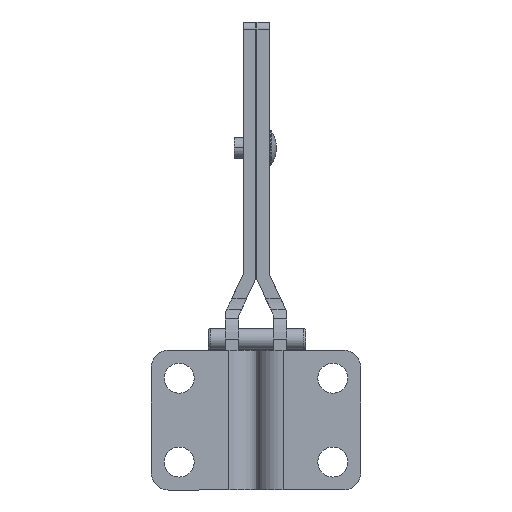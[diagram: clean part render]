
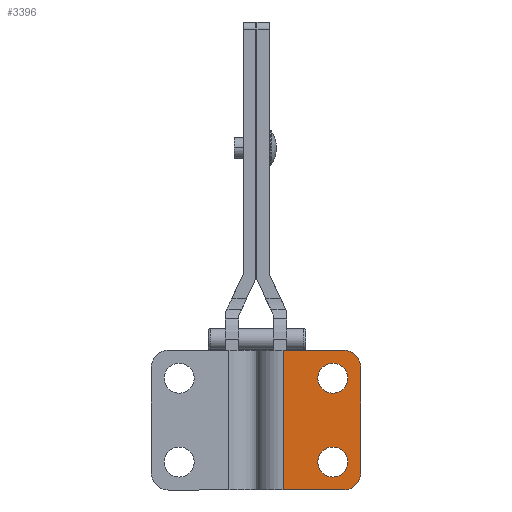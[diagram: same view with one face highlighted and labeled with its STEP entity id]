
A CAD part, front view. The second image highlights one B-rep face of the part: STEP entity #3396.
In plain terms, the highlighted planar face has unit normal (0, -1, 0).
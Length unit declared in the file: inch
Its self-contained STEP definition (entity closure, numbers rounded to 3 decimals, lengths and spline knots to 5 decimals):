
#688=CARTESIAN_POINT('',(-0.42485,0.,0.25));
#689=VERTEX_POINT('',#688);
#698=CARTESIAN_POINT('',(-0.15685,0.,0.25));
#699=VERTEX_POINT('',#698);
#700=CARTESIAN_POINT('',(-0.29085,0.,0.25));
#701=DIRECTION('',(0.0,1.0,0.0));
#702=DIRECTION('',(-1.0,0.0,0.0));
#703=AXIS2_PLACEMENT_3D('',#700,#701,#702);
#704=CIRCLE('',#703,0.134);
#705=EDGE_CURVE('',#699,#689,#704,.T.);
#730=CARTESIAN_POINT('',(-0.42485,0.,1.0));
#731=VERTEX_POINT('',#730);
#740=CARTESIAN_POINT('',(-0.15685,0.,1.0));
#741=VERTEX_POINT('',#740);
#742=CARTESIAN_POINT('',(-0.29085,0.,1.0));
#743=DIRECTION('',(0.0,1.0,0.0));
#744=DIRECTION('',(-1.0,0.0,0.0));
#745=AXIS2_PLACEMENT_3D('',#742,#743,#744);
#746=CIRCLE('',#745,0.134);
#747=EDGE_CURVE('',#741,#731,#746,.T.);
#774=CARTESIAN_POINT('',(-0.08554,0.,1.20431));
#775=VERTEX_POINT('',#774);
#791=CARTESIAN_POINT('',(-0.19585,0.,1.25));
#792=VERTEX_POINT('',#791);
#799=CARTESIAN_POINT('',(-0.19585,0.,1.094));
#800=DIRECTION('',(0.,1.0,0.));
#801=DIRECTION('',(0.707,0.,0.707));
#802=AXIS2_PLACEMENT_3D('',#799,#800,#801);
#803=CIRCLE('',#802,0.156);
#804=EDGE_CURVE('',#792,#775,#803,.T.);
#816=CARTESIAN_POINT('',(-0.08554,0.,0.04569));
#817=VERTEX_POINT('',#816);
#833=CARTESIAN_POINT('',(-0.03985,0.,0.156));
#834=VERTEX_POINT('',#833);
#841=CARTESIAN_POINT('',(-0.19585,0.,0.156));
#842=DIRECTION('',(0.,1.,0.));
#843=DIRECTION('',(0.707,0.,-0.707));
#844=AXIS2_PLACEMENT_3D('',#841,#842,#843);
#845=CIRCLE('',#844,0.156);
#846=EDGE_CURVE('',#834,#817,#845,.T.);
#2065=CARTESIAN_POINT('',(-0.73485,0.,1.25));
#2066=VERTEX_POINT('',#2065);
#2074=CARTESIAN_POINT('',(-0.19585,0.,1.25));
#2075=DIRECTION('',(-1.0,0.0,0.0));
#2076=VECTOR('',#2075,0.539);
#2077=LINE('',#2074,#2076);
#2078=EDGE_CURVE('',#792,#2066,#2077,.T.);
#3159=CARTESIAN_POINT('',(-0.19585,0.,0.));
#3160=VERTEX_POINT('',#3159);
#3161=CARTESIAN_POINT('',(-0.19585,0.,0.156));
#3162=DIRECTION('',(0.,1.,0.));
#3163=DIRECTION('',(0.707,0.,-0.707));
#3164=AXIS2_PLACEMENT_3D('',#3161,#3162,#3163);
#3165=CIRCLE('',#3164,0.156);
#3166=EDGE_CURVE('',#817,#3160,#3165,.T.);
#3200=CARTESIAN_POINT('',(-0.03985,0.,1.094));
#3201=VERTEX_POINT('',#3200);
#3208=CARTESIAN_POINT('',(-0.03985,0.,0.156));
#3209=DIRECTION('',(0.0,0.0,1.0));
#3210=VECTOR('',#3209,0.938);
#3211=LINE('',#3208,#3210);
#3212=EDGE_CURVE('',#834,#3201,#3211,.T.);
#3277=CARTESIAN_POINT('',(-0.19585,0.,1.094));
#3278=DIRECTION('',(0.,1.0,0.));
#3279=DIRECTION('',(0.707,0.,0.707));
#3280=AXIS2_PLACEMENT_3D('',#3277,#3278,#3279);
#3281=CIRCLE('',#3280,0.156);
#3282=EDGE_CURVE('',#775,#3201,#3281,.T.);
#3297=CARTESIAN_POINT('',(-0.29085,0.,1.0));
#3298=DIRECTION('',(0.0,1.0,0.0));
#3299=DIRECTION('',(-1.0,0.0,0.0));
#3300=AXIS2_PLACEMENT_3D('',#3297,#3298,#3299);
#3301=CIRCLE('',#3300,0.134);
#3302=EDGE_CURVE('',#731,#741,#3301,.T.);
#3315=CARTESIAN_POINT('',(-0.29085,0.,0.25));
#3316=DIRECTION('',(0.0,1.0,0.0));
#3317=DIRECTION('',(-1.0,0.0,0.0));
#3318=AXIS2_PLACEMENT_3D('',#3315,#3316,#3317);
#3319=CIRCLE('',#3318,0.134);
#3320=EDGE_CURVE('',#689,#699,#3319,.T.);
#3332=CARTESIAN_POINT('',(-0.73485,0.,0.));
#3333=VERTEX_POINT('',#3332);
#3341=CARTESIAN_POINT('',(-0.73485,0.,0.));
#3342=DIRECTION('',(0.0,0.0,1.0));
#3343=VECTOR('',#3342,1.25);
#3344=LINE('',#3341,#3343);
#3345=EDGE_CURVE('',#3333,#2066,#3344,.T.);
#3368=CARTESIAN_POINT('',(-0.03985,0.,0.));
#3369=DIRECTION('',(0.0,-1.0,0.0));
#3370=DIRECTION('',(0.0,0.0,-1.0));
#3371=AXIS2_PLACEMENT_3D('',#3368,#3369,#3370);
#3372=PLANE('',#3371);
#3373=ORIENTED_EDGE('',*,*,#846,.F.);
#3374=ORIENTED_EDGE('',*,*,#3212,.T.);
#3375=ORIENTED_EDGE('',*,*,#3282,.F.);
#3376=ORIENTED_EDGE('',*,*,#804,.F.);
#3377=ORIENTED_EDGE('',*,*,#2078,.T.);
#3378=ORIENTED_EDGE('',*,*,#3345,.F.);
#3379=CARTESIAN_POINT('',(-0.19585,0.,0.));
#3380=DIRECTION('',(-1.0,0.0,0.0));
#3381=VECTOR('',#3380,0.539);
#3382=LINE('',#3379,#3381);
#3383=EDGE_CURVE('',#3160,#3333,#3382,.T.);
#3384=ORIENTED_EDGE('',*,*,#3383,.F.);
#3385=ORIENTED_EDGE('',*,*,#3166,.F.);
#3386=EDGE_LOOP('',(#3373,#3374,#3375,#3376,#3377,#3378,#3384,#3385));
#3387=FACE_OUTER_BOUND('',#3386,.T.);
#3388=ORIENTED_EDGE('',*,*,#747,.T.);
#3389=ORIENTED_EDGE('',*,*,#3302,.T.);
#3390=EDGE_LOOP('',(#3388,#3389));
#3391=FACE_BOUND('',#3390,.T.);
#3392=ORIENTED_EDGE('',*,*,#705,.T.);
#3393=ORIENTED_EDGE('',*,*,#3320,.T.);
#3394=EDGE_LOOP('',(#3392,#3393));
#3395=FACE_BOUND('',#3394,.T.);
#3396=ADVANCED_FACE('',(#3387,#3391,#3395),#3372,.T.);
